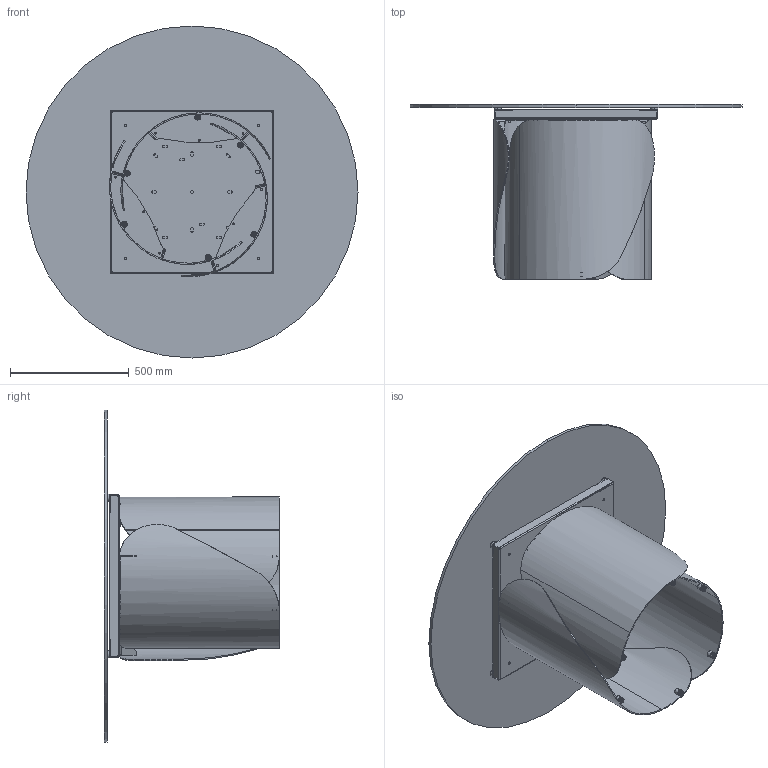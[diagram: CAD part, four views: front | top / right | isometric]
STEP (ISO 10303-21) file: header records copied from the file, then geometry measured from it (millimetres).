
FILE_DESCRIPTION (( 'STEP AP203' ), '1' );
FILE_NAME ('ON06G.STEP', '2024-08-06T13:29:23', ( '' ), ( '' ), 'SwSTEP 2.0', 'SolidWorks 2022', '' );
FILE_SCHEMA (( 'CONFIG_CONTROL_DESIGN' ));
Length unit declared in the file: millimetre
Products named in the file (15): OND000000_03-00-LAMIERA CURVATA PRINCIPALE_OND00000X-00-ONDA BASE GREZZA PROTOTIPO; OND000000_02-00-CILINDRO DI FISSAGGIO Ø25X17 M8; M8xXXmm_M8x20mm; COLLO TELAIO UNIVERSALE TTAV0801 CON FERRAMENTA_MTG TOP CRISTALLO VERNICIATO-CERAMICA; COLLO BASE ONDA SINGOLA CON FERRAMENTA; TTAV0801-02-TELAIO UNIVERSALE TONDO-VASSOIO; OND000000-03-ONDA BASE GREZZA; ON06G; TTAV0801 TELAIO UNIVERSALE TONDO-PIASTRINA; rondella M8_8X24; PIEDINO PER ONDA; C1XCRMXX-00-piani Rotondi Cristallo_C06 D.140cm; 434070-00-PIEDINO TPV GOMMA NERO D. 30x8max18_filo estetico; TTAV0801-02-TELAIO UNIVERSALE TONDO; OND000000_01-00-PIASTRA SUPERIORE BASE ONDA
Assembly tree (46 placements, depth 4):
  ON06G
    COLLO TELAIO UNIVERSALE TTAV0801 CON FERRAMENTA_MTG TOP CRISTALLO VERNICIATO-CERAMICA
      TTAV0801-02-TELAIO UNIVERSALE TONDO
        TTAV0801-02-TELAIO UNIVERSALE TONDO-VASSOIO
        TTAV0801 TELAIO UNIVERSALE TONDO-PIASTRINA  x4
      434070-00-PIEDINO TPV GOMMA NERO D. 30x8max18_filo estetico  x4
    COLLO BASE ONDA SINGOLA CON FERRAMENTA  x3
      OND000000-03-ONDA BASE GREZZA
        OND000000_03-00-LAMIERA CURVATA PRINCIPALE_OND00000X-00-ONDA BASE GREZZA PROTOTIPO
        OND000000_01-00-PIASTRA SUPERIORE BASE ONDA
        OND000000_02-00-CILINDRO DI FISSAGGIO Ø25X17 M8  x2
      PIEDINO PER ONDA
    rondella M8_8X24  x12
    M8xXXmm_M8x20mm  x12
    C1XCRMXX-00-piani Rotondi Cristallo_C06 D.140cm
Bounding box: 1400 x 738 x 1400 mm (x, y, z)
Volume: 29253421.5 mm3; surface area: 7771712.4 mm2
Topology: 62 solids, 62 shells, 1545 faces, 3651 edges, 2266 vertices
Faces by surface type: plane 626, cylinder 543, torus 184, cone 132, bspline 60
Entity records: 19338 total; most frequent: CARTESIAN_POINT 4513, DIRECTION 2655, ORIENTED_EDGE 2532, EDGE_CURVE 1266, AXIS2_PLACEMENT_3D 968, VERTEX_POINT 816, VECTOR 719, LINE 719
